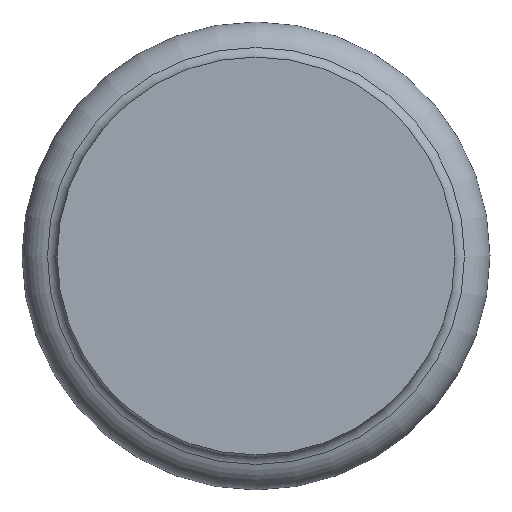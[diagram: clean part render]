
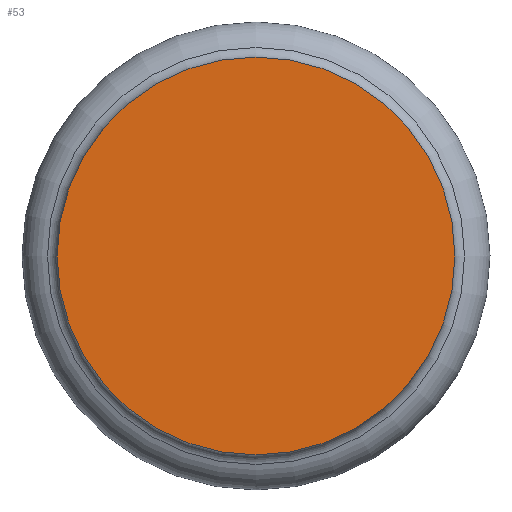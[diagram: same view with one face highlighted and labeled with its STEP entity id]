
A CAD part, front view. The second image highlights one B-rep face of the part: STEP entity #53.
In plain terms, the highlighted planar face has unit normal (0, -1, 0).
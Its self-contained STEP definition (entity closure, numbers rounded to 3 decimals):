
#53=ADVANCED_FACE('',(#82),#84,.F.);
#82=FACE_BOUND('',#83,.T.);
#83=EDGE_LOOP('',(#307));
#84=PLANE('',#85);
#85=AXIS2_PLACEMENT_3D('',#86,#87,#88);
#86=CARTESIAN_POINT('',(0.,0.,0.));
#87=DIRECTION('',(0.,1.,0.));
#88=DIRECTION('',(-1.,0.,0.));
#307=ORIENTED_EDGE('',*,*,#431,.F.);
#431=EDGE_CURVE('',#493,#493,#494,.T.);
#493=VERTEX_POINT('',#601);
#494=CIRCLE('',#602,22.65);
#601=CARTESIAN_POINT('',(0.,0.,22.65));
#602=AXIS2_PLACEMENT_3D('',#603,#604,#605);
#603=CARTESIAN_POINT('',(0.,0.,0.));
#604=DIRECTION('',(0.,1.,0.));
#605=DIRECTION('',(0.,0.,1.));
